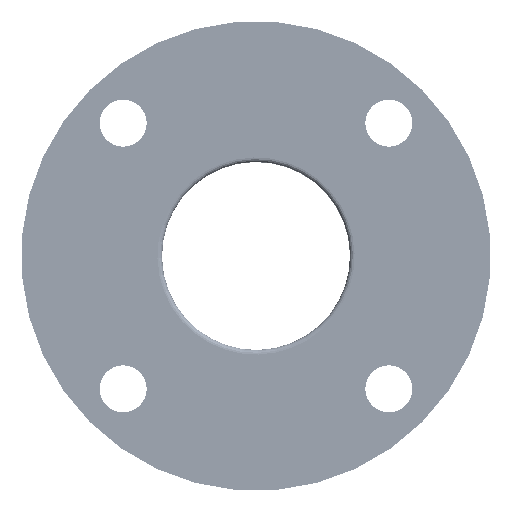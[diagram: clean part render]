
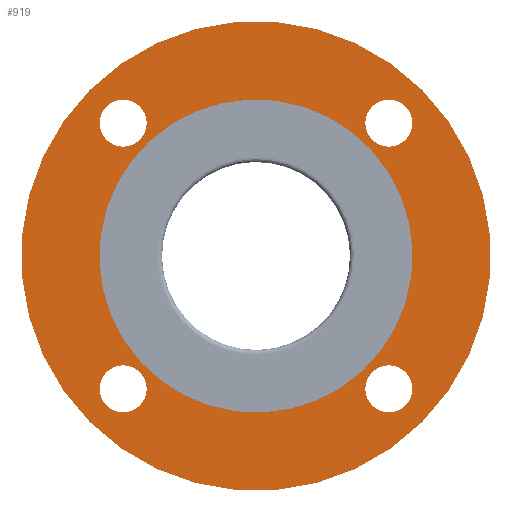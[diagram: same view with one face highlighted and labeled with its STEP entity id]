
A CAD part, front view. The second image highlights one B-rep face of the part: STEP entity #919.
In plain terms, the highlighted planar face has unit normal (0, -1, 0) as drawn and (0, 0, -1) by its records, which use the part's own axes.
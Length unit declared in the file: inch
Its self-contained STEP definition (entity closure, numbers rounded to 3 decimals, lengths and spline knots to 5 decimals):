
#824=CARTESIAN_POINT('',(2.34375,0.,0.0));
#825=VERTEX_POINT('',#824);
#826=CARTESIAN_POINT('',(0.0,0.0,0.0));
#827=DIRECTION('',(0.0,0.0,-1.0));
#828=DIRECTION('',(-1.0,0.0,0.0));
#829=AXIS2_PLACEMENT_3D('',#826,#827,#828);
#830=CIRCLE('',#829,2.34375);
#831=EDGE_CURVE('',#825,#825,#830,.T.);
#856=CARTESIAN_POINT('',(0.0,0.0,0.0));
#857=DIRECTION('',(0.0,0.0,-1.0));
#858=DIRECTION('',(-1.0,0.0,0.0));
#859=AXIS2_PLACEMENT_3D('',#856,#857,#858);
#860=PLANE('',#859);
#861=CARTESIAN_POINT('',(3.75,0.,0.0));
#862=VERTEX_POINT('',#861);
#863=CARTESIAN_POINT('',(0.0,0.0,0.0));
#864=DIRECTION('',(0.0,0.0,-1.0));
#865=DIRECTION('',(-1.0,0.0,0.0));
#866=AXIS2_PLACEMENT_3D('',#863,#864,#865);
#867=CIRCLE('',#866,3.75);
#868=EDGE_CURVE('',#862,#862,#867,.T.);
#869=ORIENTED_EDGE('',*,*,#868,.T.);
#870=EDGE_LOOP('',(#869));
#871=FACE_OUTER_BOUND('',#870,.T.);
#872=CARTESIAN_POINT('',(-0.375,3.0,0.0));
#873=VERTEX_POINT('',#872);
#874=CARTESIAN_POINT('',(0.0,3.0,0.0));
#875=DIRECTION('',(0.0,0.0,1.0));
#876=DIRECTION('',(-1.0,0.0,0.0));
#877=AXIS2_PLACEMENT_3D('',#874,#875,#876);
#878=CIRCLE('',#877,0.375);
#879=EDGE_CURVE('',#873,#873,#878,.T.);
#880=ORIENTED_EDGE('',*,*,#879,.T.);
#881=EDGE_LOOP('',(#880));
#882=FACE_BOUND('',#881,.T.);
#883=CARTESIAN_POINT('',(-3.0,-0.375,0.0));
#884=VERTEX_POINT('',#883);
#885=CARTESIAN_POINT('',(-3.0,0.,0.0));
#886=DIRECTION('',(0.0,0.0,1.0));
#887=DIRECTION('',(0.0,-1.0,0.0));
#888=AXIS2_PLACEMENT_3D('',#885,#886,#887);
#889=CIRCLE('',#888,0.375);
#890=EDGE_CURVE('',#884,#884,#889,.T.);
#891=ORIENTED_EDGE('',*,*,#890,.T.);
#892=EDGE_LOOP('',(#891));
#893=FACE_BOUND('',#892,.T.);
#894=CARTESIAN_POINT('',(0.375,-3.0,0.0));
#895=VERTEX_POINT('',#894);
#896=CARTESIAN_POINT('',(0.,-3.0,0.0));
#897=DIRECTION('',(0.0,0.0,1.0));
#898=DIRECTION('',(1.0,0.0,0.0));
#899=AXIS2_PLACEMENT_3D('',#896,#897,#898);
#900=CIRCLE('',#899,0.375);
#901=EDGE_CURVE('',#895,#895,#900,.T.);
#902=ORIENTED_EDGE('',*,*,#901,.T.);
#903=EDGE_LOOP('',(#902));
#904=FACE_BOUND('',#903,.T.);
#905=CARTESIAN_POINT('',(3.0,0.375,0.0));
#906=VERTEX_POINT('',#905);
#907=CARTESIAN_POINT('',(3.0,0.,0.0));
#908=DIRECTION('',(0.0,0.0,1.0));
#909=DIRECTION('',(0.0,1.0,0.0));
#910=AXIS2_PLACEMENT_3D('',#907,#908,#909);
#911=CIRCLE('',#910,0.375);
#912=EDGE_CURVE('',#906,#906,#911,.T.);
#913=ORIENTED_EDGE('',*,*,#912,.T.);
#914=EDGE_LOOP('',(#913));
#915=FACE_BOUND('',#914,.T.);
#916=ORIENTED_EDGE('',*,*,#831,.F.);
#917=EDGE_LOOP('',(#916));
#918=FACE_BOUND('',#917,.T.);
#919=ADVANCED_FACE('',(#871,#882,#893,#904,#915,#918),#860,.T.);
